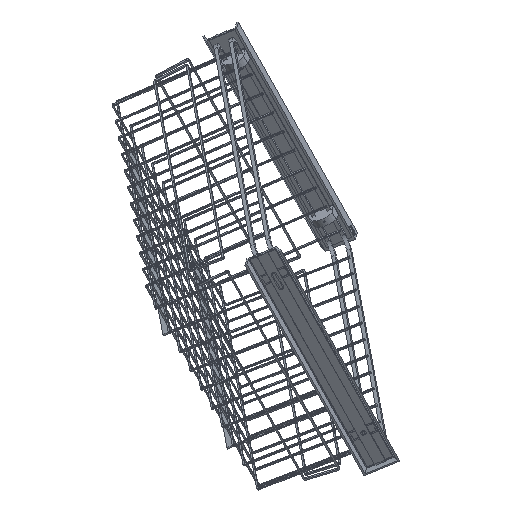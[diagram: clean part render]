
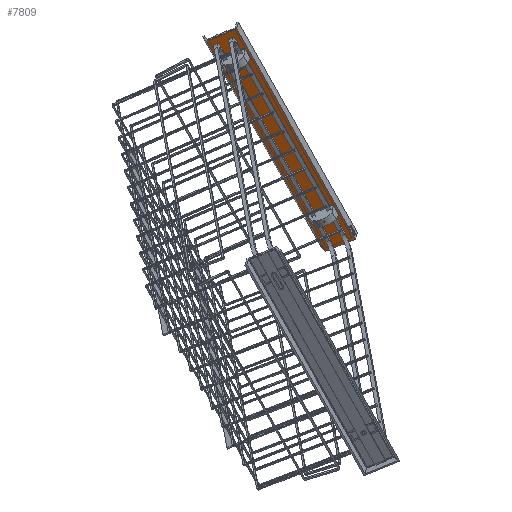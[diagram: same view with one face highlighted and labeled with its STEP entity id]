
A CAD part, top view. The second image highlights one B-rep face of the part: STEP entity #7809.
In plain terms, the highlighted planar face has unit normal (0.115, -0.62, 0.776) as drawn and (1, 0, 0) by its records, which use the part's own axes.
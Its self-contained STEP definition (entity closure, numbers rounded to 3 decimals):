
#396=FACE_BOUND('',#1388,.T.);
#397=FACE_BOUND('',#1389,.T.);
#591=PLANE('',#8556);
#961=FACE_OUTER_BOUND('',#1387,.T.);
#1387=EDGE_LOOP('',(#6554,#6555,#6556,#6557));
#1388=EDGE_LOOP('',(#6558));
#1389=EDGE_LOOP('',(#6559,#6560,#6561,#6562));
#1659=CIRCLE('',#8547,2.15);
#1660=CIRCLE('',#8549,2.15);
#1661=CIRCLE('',#8552,2.15);
#2164=LINE('',#12048,#3083);
#2170=LINE('',#12057,#3089);
#2175=LINE('',#12072,#3094);
#2178=LINE('',#12079,#3097);
#2180=LINE('',#12084,#3099);
#2181=LINE('',#12086,#3100);
#3083=VECTOR('',#9858,10.);
#3089=VECTOR('',#9868,10.);
#3094=VECTOR('',#9885,10.);
#3097=VECTOR('',#9894,10.);
#3099=VECTOR('',#9900,10.);
#3100=VECTOR('',#9903,10.);
#3905=VERTEX_POINT('',#12045);
#3906=VERTEX_POINT('',#12047);
#3907=VERTEX_POINT('',#12055);
#3908=VERTEX_POINT('',#12061);
#3909=VERTEX_POINT('',#12065);
#3910=VERTEX_POINT('',#12067);
#3911=VERTEX_POINT('',#12071);
#3912=VERTEX_POINT('',#12075);
#3913=VERTEX_POINT('',#12082);
#4831=EDGE_CURVE('',#3905,#3906,#2164,.T.);
#4837=EDGE_CURVE('',#3907,#3905,#2170,.T.);
#4839=EDGE_CURVE('',#3908,#3908,#1659,.T.);
#4842=EDGE_CURVE('',#3910,#3909,#1660,.T.);
#4844=EDGE_CURVE('',#3911,#3910,#2175,.T.);
#4846=EDGE_CURVE('',#3912,#3911,#1661,.T.);
#4848=EDGE_CURVE('',#3909,#3912,#2178,.T.);
#4850=EDGE_CURVE('',#3907,#3913,#2180,.T.);
#4851=EDGE_CURVE('',#3906,#3913,#2181,.T.);
#6554=ORIENTED_EDGE('',*,*,#4837,.F.);
#6555=ORIENTED_EDGE('',*,*,#4850,.T.);
#6556=ORIENTED_EDGE('',*,*,#4851,.F.);
#6557=ORIENTED_EDGE('',*,*,#4831,.F.);
#6558=ORIENTED_EDGE('',*,*,#4839,.T.);
#6559=ORIENTED_EDGE('',*,*,#4846,.T.);
#6560=ORIENTED_EDGE('',*,*,#4844,.T.);
#6561=ORIENTED_EDGE('',*,*,#4842,.T.);
#6562=ORIENTED_EDGE('',*,*,#4848,.T.);
#7809=ADVANCED_FACE('',(#961,#396,#397),#591,.T.);
#8547=AXIS2_PLACEMENT_3D('',#12062,#9874,#9875);
#8549=AXIS2_PLACEMENT_3D('',#12068,#9880,#9881);
#8552=AXIS2_PLACEMENT_3D('',#12076,#9889,#9890);
#8556=AXIS2_PLACEMENT_3D('',#12085,#9901,#9902);
#9858=DIRECTION('',(0.,0.,1.));
#9868=DIRECTION('',(0.,-1.,0.));
#9874=DIRECTION('center_axis',(-1.,0.,0.));
#9875=DIRECTION('ref_axis',(0.,0.,
1.));
#9880=DIRECTION('center_axis',(-1.,0.,0.));
#9881=DIRECTION('ref_axis',(0.,1.,0.));
#9885=DIRECTION('',(0.,0.,-1.));
#9889=DIRECTION('center_axis',(-1.,0.,0.));
#9890=DIRECTION('ref_axis',(0.,-1.,0.));
#9894=DIRECTION('',(0.,0.,1.));
#9900=DIRECTION('',(0.,0.,1.));
#9901=DIRECTION('center_axis',(1.,0.,0.));
#9902=DIRECTION('ref_axis',(0.,1.,0.));
#9903=DIRECTION('',(0.,1.,0.));
#12045=CARTESIAN_POINT('',(3.486,-45.761,0.));
#12047=CARTESIAN_POINT('',(3.486,-45.761,458.));
#12048=CARTESIAN_POINT('',(3.486,-45.761,0.));
#12055=CARTESIAN_POINT('',(3.486,3.633,0.));
#12057=CARTESIAN_POINT('',(3.486,3.633,0.));
#12061=CARTESIAN_POINT('',(3.486,-21.065,387.85));
#12062=CARTESIAN_POINT('Origin',(3.486,-21.065,390.));
#12065=CARTESIAN_POINT('',(3.486,-23.228,45.));
#12067=CARTESIAN_POINT('',(3.486,-18.928,45.));
#12068=CARTESIAN_POINT('Origin',(3.486,-21.078,45.));
#12071=CARTESIAN_POINT('',(3.486,-18.928,73.));
#12072=CARTESIAN_POINT('',(3.486,-18.928,36.5));
#12075=CARTESIAN_POINT('',(3.486,-23.228,73.));
#12076=CARTESIAN_POINT('Origin',(3.486,-21.078,73.));
#12079=CARTESIAN_POINT('',(3.486,-23.228,22.5));
#12082=CARTESIAN_POINT('',(3.486,3.633,458.));
#12084=CARTESIAN_POINT('',(3.486,3.633,0.));
#12085=CARTESIAN_POINT('Origin',(3.486,-21.064,0.));
#12086=CARTESIAN_POINT('',(3.486,-21.064,458.));
